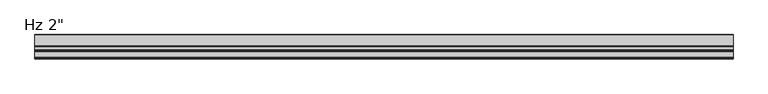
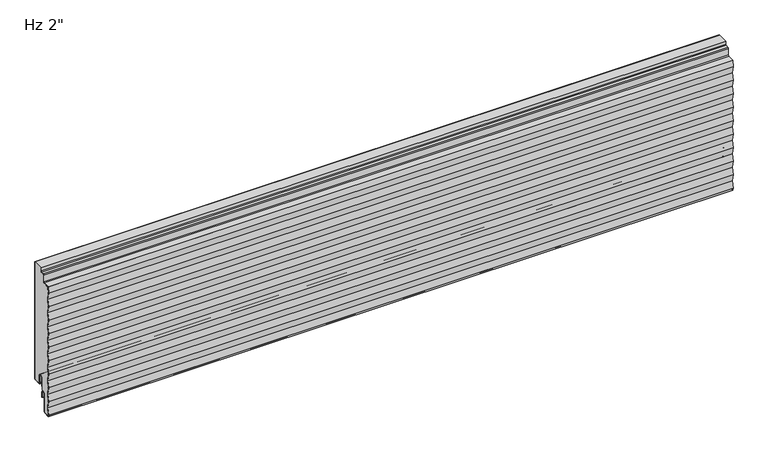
"""IFC4 building model written with IfcOpenShell, lengths in millimetres: plate geometry."""

from ifc_helpers import new_model, si_unit, point, frame, frame_2d, origin, place, context, project, spatial, polyline, circle_curve, trimmed, segment, composite_curve, outline, extrude, source, transform, mapped, element, save
from ifc_brep_helpers import plane_surface, cylinder_surface, revolved_surface, advanced_brep


def plate_127f21c6(model_context):
    return source(origin(), model_context, "Body", "SolidModel", [
        extrude(outline(composite_curve([segment(polyline([(-22.8125, 259.7620957), (-22.8125, 266.4), (-1.0, 266.4), (-1.0, 3.175)]), True, "CONTINUOUS"), segment(trimmed(circle_curve(frame_2d((-2.38125, 3.175)), 1.38125), [point((-1.0, 3.175))], [point((-2.38125, 1.79375))], False, "CARTESIAN"), True, "CONTINUOUS"), segment(polyline([(-2.38125, 1.79375), (-15.08125, 1.79375)]), True, "CONTINUOUS"), segment(trimmed(circle_curve(frame_2d((-15.08125, 3.175)), 1.38125), [point((-15.08125, 1.79375))], [point((-16.4625, 3.175))], False, "CARTESIAN"), True, "CONTINUOUS"), segment(polyline([(-16.4625, 3.175), (-16.4625, 19.05)]), True, "CONTINUOUS"), segment(trimmed(circle_curve(frame_2d((-21.43125, 19.05)), 4.96875), [point((-16.4625, 19.05))], [point((-26.4, 19.05))], True, "CARTESIAN"), True, "CONTINUOUS"), segment(polyline([(-26.4, 19.05), (-26.4, -6.9375), (-30.95625, -6.9375)]), True, "CONTINUOUS"), segment(trimmed(circle_curve(frame_2d((-30.95625, -11.90625)), 4.96875), [point((-30.95625, -6.9375))], [point((-35.925, -11.90625))], True, "CARTESIAN"), True, "CONTINUOUS"), segment(polyline([(-35.925, -11.90625), (-35.925, -50.0895546)]), True, "CONTINUOUS"), segment(trimmed(circle_curve(frame_2d((-37.30625, -50.0895546)), 1.38125), [point((-35.925, -50.0895546))], [point((-37.233961, -51.4689117))], False, "CARTESIAN"), True, "CONTINUOUS"), segment(polyline([(-37.233961, -51.4689117), (-48.346824, -52.0517378)]), True, "CONTINUOUS"), segment(trimmed(circle_curve(frame_2d((-48.4195367, -50.6716754)), 1.3819766), [point((-48.346824, -52.0517378))], [point((-49.7322508, -51.1036948))], False, "CARTESIAN"), True, "CONTINUOUS"), segment(polyline([(-49.7322508, -51.1036948), (-50.0933847, -48.8511475), (-47.6552034, -33.6111825), (-50.0936034, -18.3711825), (-47.6552034, -3.1311825), (-50.0936034, 12.1088175), (-47.6552034, 27.3488175), (-50.0936034, 42.5888175), (-47.6552034, 57.8288175), (-50.0936034, 73.0688175), (-47.6552034, 88.3088175), (-50.0936034, 103.5488175), (-47.6552034, 118.7888175), (-50.0936034, 134.0288175), (-47.6552034, 149.2688175), (-50.0936034, 164.5088175), (-47.6552034, 179.7488175), (-50.0936034, 194.9888175), (-47.6552034, 210.2288175), (-50.0611926, 225.26625), (-48.01595, 238.0490161), (-34.7895807, 238.7421807)]), True, "CONTINUOUS"), segment(trimmed(circle_curve(frame_2d((-34.925, 241.3261347)), 2.5875), [point((-34.7895807, 238.7421807))], [point((-32.3375, 241.3261347))], True, "CARTESIAN"), True, "CONTINUOUS"), segment(polyline([(-32.3375, 241.3261347), (-32.3375, 255.4967085)]), True, "CONTINUOUS"), segment(trimmed(circle_curve(frame_2d((-30.95625, 255.4967085)), 1.38125), [point((-32.3375, 255.4967085))], [point((-31.028539, 256.8760655))], False, "CARTESIAN"), True, "CONTINUOUS"), segment(polyline([(-31.028539, 256.8760655), (-25.2645807, 257.1781418)]), True, "CONTINUOUS"), segment(trimmed(circle_curve(frame_2d((-25.4, 259.7620957)), 2.5875), [point((-25.2645807, 257.1781418))], [point((-22.8125, 259.7620957))], True, "CARTESIAN"), True, "CONTINUOUS")], self_intersect=False)), frame((-730.0, 0.0, 0.0), z_axis=(1.0, 0.0, 0.0), x_axis=(0.0, 1.0, 0.0)), (0.0, 0.0, 1.0), 1460.0),
        extrude(outline(composite_curve([segment(polyline([(-25.4, 0.79375), (-26.4, 0.79375), (-26.4, 19.05)]), True, "CONTINUOUS"), segment(trimmed(circle_curve(frame_2d((-21.43125, 19.05)), 4.96875), [point((-26.4, 19.05))], [point((-16.4625, 19.05))], False, "CARTESIAN"), True, "CONTINUOUS"), segment(polyline([(-16.4625, 19.05), (-16.4625, 3.175)]), True, "CONTINUOUS"), segment(trimmed(circle_curve(frame_2d((-15.08125, 3.175)), 1.38125), [point((-16.4625, 3.175))], [point((-15.08125, 1.79375))], True, "CARTESIAN"), True, "CONTINUOUS"), segment(polyline([(-15.08125, 1.79375), (-2.38125, 1.79375)]), True, "CONTINUOUS"), segment(trimmed(circle_curve(frame_2d((-2.38125, 3.175)), 1.38125), [point((-2.38125, 1.79375))], [point((-1.0, 3.175))], True, "CARTESIAN"), True, "CONTINUOUS"), segment(polyline([(-1.0, 3.175), (-1.0, 266.4), (0.0, 266.4), (0.0, 3.175)]), True, "CONTINUOUS"), segment(trimmed(circle_curve(frame_2d((-2.38125, 3.175)), 2.38125), [point((0.0, 3.175))], [point((-2.38125, 0.79375))], False, "CARTESIAN"), True, "CONTINUOUS"), segment(polyline([(-2.38125, 0.79375), (-15.08125, 0.79375)]), True, "CONTINUOUS"), segment(trimmed(circle_curve(frame_2d((-15.08125, 3.175)), 2.38125), [point((-15.08125, 0.79375))], [point((-17.4625, 3.175))], False, "CARTESIAN"), True, "CONTINUOUS"), segment(polyline([(-17.4625, 3.175), (-17.4625, 19.05)]), True, "CONTINUOUS"), segment(trimmed(circle_curve(frame_2d((-21.43125, 19.05)), 3.96875), [point((-17.4625, 19.05))], [point((-25.4, 19.05))], True, "CARTESIAN"), True, "CONTINUOUS"), segment(polyline([(-25.4, 19.05), (-25.4, 0.79375)]), True, "CONTINUOUS")], self_intersect=False)), frame((-730.0, 0.0, 0.0), z_axis=(1.0, 0.0, 0.0), x_axis=(0.0, 1.0, 0.0)), (0.0, 0.0, 1.0), 1460.0),
        advanced_brep(
        [(-730.0, -25.4, -23.2314549), (-730.0, -26.9875, -23.2314549), (-730.0, -26.9875, -11.9205174), (-730.0, -34.925, -11.9205174), (-730.0, -34.925, -50.1038221), (-730.0, -37.181625, -52.4818086), (-730.0, -50.113818, -53.1595562), (-730.0, -50.8, -48.8709186), (-730.0, -48.3616, -33.6309186), (-730.0, -50.8, -18.3909186), (-730.0, -48.3616, -3.1509186), (-730.0, -50.8, 12.0890814), (-730.0, -48.3616, 27.3290814), (-730.0, -50.8, 42.5690814), (-730.0, -48.3616, 57.8090814), (-730.0, -50.8, 73.0490814), (-730.0, -48.3616, 88.2890814), (-730.0, -50.8, 103.5290814), (-730.0, -48.3616, 118.7690814), (-730.0, -50.8, 134.0090814), (-730.0, -48.3616, 149.2490814), (-730.0, -50.8, 164.4890814), (-730.0, -48.3616, 179.7290814), (-730.0, -50.8, 194.9690814), (-730.0, -48.3616, 210.2090814), (-730.0, -50.7837946, 225.3477976), (-730.0, -48.6289309, 239.0182635), (-730.0, -34.8419167, 239.7408103), (-730.0, -33.3375, 241.3261347), (-730.0, -33.3375, 255.4824411), (-730.0, -31.080875, 257.8604276), (-730.0, -25.3169167, 258.1625039), (-730.0, -23.8125, 259.7478283), (-730.0, -23.8125, 266.4), (-730.0, -22.8125, 266.4), (-730.0, -22.8125, 259.7478283), (-730.0, -25.2645807, 257.1638744), (-730.0, -31.028539, 256.8617981), (-730.0, -32.3375, 255.4824411), (-730.0, -32.3375, 241.3261347), (-730.0, -34.7895807, 238.7421807), (-730.0, -47.7692225, 238.0619465), (-730.0, -49.7872809, 225.4490814), (-730.0, -47.3488809, 210.2090814), (-730.0, -49.7872809, 194.9690814), (-730.0, -47.3488809, 179.7290814), (-730.0, -49.7872809, 164.4890814), (-730.0, -47.3488809, 149.2490814), (-730.0, -49.7872809, 134.0090814), (-730.0, -47.3488809, 118.7690814), (-730.0, -49.7872809, 103.5290814), (-730.0, -47.3488809, 88.2890814), (-730.0, -49.7872809, 73.0490814), (-730.0, -47.3488809, 57.8090814), (-730.0, -49.7872809, 42.5690814), (-730.0, -47.3488809, 27.3290814), (-730.0, -49.7872809, 12.0890814), (-730.0, -47.3488809, -3.1509186), (-730.0, -49.7872809, -18.3909186), (-730.0, -47.3488809, -33.6309186), (-730.0, -49.7872809, -48.8709186), (-730.0, -49.2684074, -52.1138777), (-730.0, -37.233961, -51.4831791), (-730.0, -35.925, -50.1038221), (-730.0, -35.925, -11.9205174), (-730.0, -25.9875, -11.9205174), (-730.0, -26.19375, -13.5080174), (-730.0, -25.4, -13.5080174), (730.0, -25.4, -23.2314549), (730.0, -25.4, -13.5080174), (730.0, -26.19375, -13.5080174), (730.0, -25.9875, -11.9205174), (730.0, -35.925, -11.9205174), (730.0, -35.925, -50.1038221), (730.0, -37.233961, -51.4831791), (730.0, -49.2684074, -52.1138777), (730.0, -49.7872809, -48.8709186), (730.0, -47.3488809, -33.6309186), (730.0, -49.7872809, -18.3909186), (730.0, -47.3488809, -3.1509186), (730.0, -49.7872809, 12.0890814), (730.0, -47.3488809, 27.3290814), (730.0, -49.7872809, 42.5690814), (730.0, -47.3488809, 57.8090814), (730.0, -49.7872809, 73.0490814), (730.0, -47.3488809, 88.2890814), (730.0, -49.7872809, 103.5290814), (730.0, -47.3488809, 118.7690814), (730.0, -49.7872809, 134.0090814), (730.0, -47.3488809, 149.2490814), (730.0, -49.7872809, 164.4890814), (730.0, -47.3488809, 179.7290814), (730.0, -49.7872809, 194.9690814), (730.0, -47.3488809, 210.2090814), (730.0, -49.7710755, 225.3477976), (730.0, -47.7692225, 238.0619465), (730.0, -34.7895807, 238.7421807), (730.0, -32.3375, 241.3261347), (730.0, -32.3375, 255.4824411), (730.0, -31.028539, 256.8617981), (730.0, -25.2645807, 257.1638744), (730.0, -22.8125, 259.7478283), (730.0, -22.8125, 266.4), (730.0, -23.8125, 266.4), (730.0, -23.8125, 259.7478283), (730.0, -25.3169167, 258.1625039), (730.0, -31.080875, 257.8604276), (730.0, -33.3375, 255.4824411), (730.0, -33.3375, 241.3261347), (730.0, -34.8419167, 239.7408103), (730.0, -48.6289309, 239.0182635), (730.0, -50.8, 225.4490814), (730.0, -48.3616, 210.2090814), (730.0, -50.8, 194.9690814), (730.0, -48.3616, 179.7290814), (730.0, -50.8, 164.4890814), (730.0, -48.3616, 149.2490814), (730.0, -50.8, 134.0090814), (730.0, -48.3616, 118.7690814), (730.0, -50.8, 103.5290814), (730.0, -48.3616, 88.2890814), (730.0, -50.8, 73.0490814), (730.0, -48.3616, 57.8090814), (730.0, -50.8, 42.5690814), (730.0, -48.3616, 27.3290814), (730.0, -50.8, 12.0890814), (730.0, -48.3616, -3.1509186), (730.0, -50.8, -18.3909186), (730.0, -48.3616, -33.6309186), (730.0, -50.8, -48.8709186), (730.0, -50.113818, -53.1595562), (730.0, -37.181625, -52.4818086), (730.0, -34.925, -50.1038221), (730.0, -34.925, -11.9205174), (730.0, -26.9875, -11.9205174), (730.0, -26.9875, -23.2314549)],
        [
            (0, 1, circle_curve(frame((-730.0, -26.19375, -23.2314549), z_axis=(-1.0, 0.0, 0.0), x_axis=(0.0, 0.0, 1.0)), 0.79375)),
            (1, 2),
            (2, 3, circle_curve(frame((-730.0, -30.95625, -11.9205174), z_axis=(1.0, 0.0, 0.0), x_axis=(0.0, 0.0, 1.0)), 3.96875)),
            (3, 4),
            (4, 5, circle_curve(frame((-730.0, -37.30625, -50.1038221), z_axis=(-1.0, 0.0, 0.0), x_axis=(0.0, 0.0, 1.0)), 2.38125)),
            (5, 6),
            (6, 7),
            (7, 8),
            (8, 9),
            (9, 10),
            (10, 11),
            (11, 12),
            (12, 13),
            (13, 14),
            (14, 15),
            (15, 16),
            (16, 17),
            (17, 18),
            (18, 19),
            (19, 20),
            (20, 21),
            (21, 22),
            (22, 23),
            (23, 24),
            (24, 25),
            (25, 26),
            (26, 27),
            (27, 28, circle_curve(frame((-730.0, -34.925, 241.3261347), z_axis=(1.0, 0.0, 0.0), x_axis=(0.0, 0.0, 1.0)), 1.5875)),
            (28, 29),
            (29, 30, circle_curve(frame((-730.0, -30.95625, 255.4824411), z_axis=(-1.0, 0.0, 0.0), x_axis=(0.0, 0.0, 1.0)), 2.38125)),
            (30, 31),
            (31, 32, circle_curve(frame((-730.0, -25.4, 259.7478283), z_axis=(1.0, 0.0, 0.0), x_axis=(0.0, 0.0, 1.0)), 1.5875)),
            (32, 33),
            (33, 34),
            (34, 35),
            (35, 36, circle_curve(frame((-730.0, -25.4, 259.7478283), z_axis=(-1.0, 0.0, 0.0), x_axis=(0.0, 0.0, 1.0)), 2.5875)),
            (36, 37),
            (37, 38, circle_curve(frame((-730.0, -30.95625, 255.4824411), z_axis=(1.0, 0.0, 0.0), x_axis=(0.0, 0.0, 1.0)), 1.38125)),
            (38, 39),
            (39, 40, circle_curve(frame((-730.0, -34.925, 241.3261347), z_axis=(-1.0, 0.0, 0.0), x_axis=(0.0, 0.0, 1.0)), 2.5875)),
            (40, 41),
            (41, 42),
            (42, 43),
            (43, 44),
            (44, 45),
            (45, 46),
            (46, 47),
            (47, 48),
            (48, 49),
            (49, 50),
            (50, 51),
            (51, 52),
            (52, 53),
            (53, 54),
            (54, 55),
            (55, 56),
            (56, 57),
            (57, 58),
            (58, 59),
            (59, 60),
            (60, 61),
            (61, 62),
            (62, 63, circle_curve(frame((-730.0, -37.30625, -50.1038221), z_axis=(1.0, 0.0, 0.0), x_axis=(0.0, 0.0, 1.0)), 1.38125)),
            (63, 64),
            (64, 65, circle_curve(frame((-730.0, -30.95625, -11.9205174), z_axis=(-1.0, 0.0, 0.0), x_axis=(0.0, 0.0, 1.0)), 4.96875)),
            (65, 66),
            (66, 67),
            (67, 0),
            (68, 69),
            (69, 70),
            (70, 71),
            (71, 72, circle_curve(frame((730.0, -30.95625, -11.9205174), z_axis=(1.0, 0.0, 0.0), x_axis=(0.0, 0.0, 1.0)), 4.96875)),
            (72, 73),
            (73, 74, circle_curve(frame((730.0, -37.30625, -50.1038221), z_axis=(-1.0, 0.0, 0.0), x_axis=(0.0, 0.0, 1.0)), 1.38125)),
            (74, 75),
            (75, 76),
            (76, 77),
            (77, 78),
            (78, 79),
            (79, 80),
            (80, 81),
            (81, 82),
            (82, 83),
            (83, 84),
            (84, 85),
            (85, 86),
            (86, 87),
            (87, 88),
            (88, 89),
            (89, 90),
            (90, 91),
            (91, 92),
            (92, 93),
            (93, 94),
            (94, 95),
            (95, 96),
            (96, 97, circle_curve(frame((730.0, -34.925, 241.3261347), z_axis=(1.0, 0.0, 0.0), x_axis=(0.0, 0.0, 1.0)), 2.5875)),
            (97, 98),
            (98, 99, circle_curve(frame((730.0, -30.95625, 255.4824411), z_axis=(-1.0, 0.0, 0.0), x_axis=(0.0, 0.0, 1.0)), 1.38125)),
            (99, 100),
            (100, 101, circle_curve(frame((730.0, -25.4, 259.7478283), z_axis=(1.0, 0.0, 0.0), x_axis=(0.0, 0.0, 1.0)), 2.5875)),
            (101, 102),
            (102, 103),
            (103, 104),
            (104, 105, circle_curve(frame((730.0, -25.4, 259.7478283), z_axis=(-1.0, 0.0, 0.0), x_axis=(0.0, 0.0, 1.0)), 1.5875)),
            (105, 106),
            (106, 107, circle_curve(frame((730.0, -30.95625, 255.4824411), z_axis=(1.0, 0.0, 0.0), x_axis=(0.0, 0.0, 1.0)), 2.38125)),
            (107, 108),
            (108, 109, circle_curve(frame((730.0, -34.925, 241.3261347), z_axis=(-1.0, 0.0, 0.0), x_axis=(0.0, 0.0, 1.0)), 1.5875)),
            (109, 110),
            (110, 111),
            (111, 112),
            (112, 113),
            (113, 114),
            (114, 115),
            (115, 116),
            (116, 117),
            (117, 118),
            (118, 119),
            (119, 120),
            (120, 121),
            (121, 122),
            (122, 123),
            (123, 124),
            (124, 125),
            (125, 126),
            (126, 127),
            (127, 128),
            (128, 129),
            (129, 130),
            (130, 131),
            (131, 132, circle_curve(frame((730.0, -37.30625, -50.1038221), z_axis=(1.0, 0.0, 0.0), x_axis=(0.0, 0.0, 1.0)), 2.38125)),
            (132, 133),
            (133, 134, circle_curve(frame((730.0, -30.95625, -11.9205174), z_axis=(-1.0, 0.0, 0.0), x_axis=(0.0, 0.0, 1.0)), 3.96875)),
            (134, 135),
            (135, 68, circle_curve(frame((730.0, -26.19375, -23.2314549), z_axis=(1.0, 0.0, 0.0), x_axis=(0.0, 0.0, 1.0)), 0.79375)),
            (61, 75),
            (74, 62),
            (73, 63),
            (72, 64),
            (71, 65),
            (66, 70),
            (69, 67),
            (39, 97),
            (96, 40),
            (37, 99),
            (98, 38),
            (35, 101),
            (100, 36),
            (34, 102),
            (103, 33),
            (32, 104),
            (30, 106),
            (105, 31),
            (28, 108),
            (107, 29),
            (27, 109),
            (5, 131),
            (130, 6),
            (3, 133),
            (132, 4),
            (1, 135),
            (134, 2),
            (68, 0),
            (46, 90),
            (89, 47),
            (88, 48),
            (87, 49),
            (26, 110),
            (95, 41),
            (24, 112),
            (111, 25),
            (42, 94),
            (93, 43),
            (92, 44),
            (91, 45),
            (21, 115),
            (114, 22),
            (113, 23),
            (20, 116),
            (18, 118),
            (117, 19),
            (16, 120),
            (119, 17),
            (14, 122),
            (121, 15),
            (12, 124),
            (123, 13),
            (10, 126),
            (125, 11),
            (8, 128),
            (127, 9),
            (129, 7),
            (59, 77),
            (76, 60),
            (57, 79),
            (78, 58),
            (55, 81),
            (80, 56),
            (53, 83),
            (82, 54),
            (51, 85),
            (84, 52),
            (86, 50),
        ],
        [
            plane_surface(frame((-730.0, -50.8, 152.4), z_axis=(-1.0, 0.0, 0.0), x_axis=(0.0, -1.0, 0.0))),
            plane_surface(frame((730.0, -50.8, 152.4), z_axis=(1.0, 0.0, 0.0), x_axis=(0.0, -1.0, 0.0))),
            plane_surface(frame((-730.0, -37.233961, -51.4831791), z_axis=(0.0, -0.052335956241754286, 0.9986295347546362), x_axis=(1.0, 0.0, 0.0))),
            revolved_surface(polyline([(730.0, -37.30625, -48.7225721), (-730.0, -37.30625, -48.7225721)]), (-730.0, -37.30625, -50.1038221), (1.0, 0.0, 0.0)),
            plane_surface(frame((-730.0, -35.925, -11.9205174), z_axis=(0.0, -1.0, 0.0), x_axis=(1.0, 0.0, 0.0))),
            cylinder_surface(frame((-730.0, -30.95625, -11.9205174), z_axis=(-1.0, 0.0, 0.0), x_axis=(0.0, 0.0, 1.0)), 4.96875),
            plane_surface(frame((-730.0, -25.4, -13.5080174), z_axis=(0.0, 0.0, 1.0), x_axis=(1.0, 0.0, 0.0))),
            plane_surface(frame((-730.0, -26.19375, -13.5080174), z_axis=(0.0, 0.9916655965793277, -0.12883844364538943), x_axis=(1.0, 0.0, 0.0))),
            cylinder_surface(frame((-730.0, -34.925, 241.3261347), z_axis=(-1.0, 0.0, 0.0), x_axis=(0.0, 0.0, 1.0)), 2.5875),
            revolved_surface(polyline([(730.0, -30.95625, 256.8636911), (-730.0, -30.95625, 256.8636911)]), (-730.0, -30.95625, 255.4824411), (1.0, 0.0, 0.0)),
            cylinder_surface(frame((-730.0, -25.4, 259.7478283), z_axis=(-1.0, 0.0, 0.0), x_axis=(0.0, 0.0, 1.0)), 2.5875),
            plane_surface(frame((-730.0, -31.028539, 256.8617981), z_axis=(0.0, 0.0523359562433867, -0.9986295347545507), x_axis=(1.0, 0.0, 0.0))),
            plane_surface(frame((-730.0, -32.3375, 241.3261347), z_axis=(0.0, 1.0, 0.0), x_axis=(1.0, 0.0, 0.0))),
            plane_surface(frame((-730.0, -22.8125, 259.7478283), z_axis=(0.0, 1.0, 0.0), x_axis=(1.0, 0.0, 0.0))),
            plane_surface(frame((-730.0, -23.8125, 274.6232326), z_axis=(0.0, -1.0, 0.0), x_axis=(1.0, 0.0, 0.0))),
            plane_surface(frame((-730.0, -25.3169167, 258.1625039), z_axis=(0.0, -0.052335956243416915, 0.9986295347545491), x_axis=(1.0, 0.0, 0.0))),
            revolved_surface(polyline([(730.0, -25.4, 261.33532829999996), (-730.0, -25.4, 261.33532829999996)]), (-730.0, -25.4, 259.7478283), (1.0, 0.0, 0.0)),
            plane_surface(frame((-730.0, -33.3375, 255.4824411), z_axis=(0.0, -1.0, 0.0), x_axis=(1.0, 0.0, 0.0))),
            revolved_surface(polyline([(730.0, -34.925, 242.91363470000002), (-730.0, -34.925, 242.91363470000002)]), (-730.0, -34.925, 241.3261347), (1.0, 0.0, 0.0)),
            cylinder_surface(frame((-730.0, -30.95625, 255.4824411), z_axis=(-1.0, 0.0, 0.0), x_axis=(0.0, 0.0, 1.0)), 2.38125),
            plane_surface(frame((-730.0, -50.113818, -53.1595562), z_axis=(0.0, 0.052335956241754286, -0.9986295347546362), x_axis=(1.0, 0.0, 0.0))),
            plane_surface(frame((-730.0, -34.925, -50.1038221), z_axis=(0.0, 1.0, 0.0), x_axis=(1.0, 0.0, 0.0))),
            plane_surface(frame((-730.0, -26.9875, -11.9205174), z_axis=(0.0, -1.0, 0.0), x_axis=(1.0, 0.0, 0.0))),
            revolved_surface(polyline([(730.0, -30.95625, -7.9517674), (-730.0, -30.95625, -7.9517674)]), (-730.0, -30.95625, -11.9205174), (1.0, 0.0, 0.0)),
            cylinder_surface(frame((-730.0, -37.30625, -50.1038221), z_axis=(-1.0, 0.0, 0.0), x_axis=(0.0, 0.0, 1.0)), 2.38125),
            plane_surface(frame((-730.0, -25.4, -23.2314549), z_axis=(0.0, 1.0, 0.0), x_axis=(1.0, 0.0, 0.0))),
            cylinder_surface(frame((-730.0, -26.19375, -23.2314549), z_axis=(-1.0, 0.0, 0.0), x_axis=(0.0, 0.0, 1.0)), 0.79375),
            plane_surface(frame((-730.0, -47.3488809, 149.2490814), z_axis=(0.0, 0.9874406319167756, 0.15799050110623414), x_axis=(1.0, 0.0, 0.0))),
            plane_surface(frame((-730.0, -49.7872809, 134.0090814), z_axis=(0.0, 0.987440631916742, -0.15799050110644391), x_axis=(1.0, 0.0, 0.0))),
            plane_surface(frame((-730.0, -47.3488809, 118.7690814), z_axis=(0.0, 0.987440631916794, 0.1579905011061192), x_axis=(1.0, 0.0, 0.0))),
            plane_surface(frame((-730.0, -34.8419167, 239.7408103), z_axis=(0.0, -0.052335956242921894, 0.998629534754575), x_axis=(1.0, 0.0, 0.0))),
            plane_surface(frame((-730.0, -47.7692225, 238.0619465), z_axis=(0.0, 0.05233595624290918, -0.9986295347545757), x_axis=(1.0, 0.0, 0.0))),
            plane_surface(frame((-730.0, -50.7837946, 225.3477976), z_axis=(0.0, -0.9874406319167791, -0.15799050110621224), x_axis=(1.0, 0.0, 0.0))),
            plane_surface(frame((-730.0, -47.3488809, 210.2090814), z_axis=(0.0, 0.9874406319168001, 0.15799050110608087), x_axis=(1.0, 0.0, 0.0))),
            plane_surface(frame((-730.0, -49.7872809, 194.9690814), z_axis=(0.0, 0.9874406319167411, -0.15799050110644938), x_axis=(1.0, 0.0, 0.0))),
            plane_surface(frame((-730.0, -47.3488809, 179.7290814), z_axis=(0.0, 0.987440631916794, 0.1579905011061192), x_axis=(1.0, 0.0, 0.0))),
            plane_surface(frame((-730.0, -49.7872809, 164.4890814), z_axis=(0.0, 0.987440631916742, -0.15799050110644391), x_axis=(1.0, 0.0, 0.0))),
            plane_surface(frame((-730.0, -48.3616, 179.7290814), z_axis=(0.0, -0.9874406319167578, 0.15799050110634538), x_axis=(1.0, 0.0, 0.0))),
            plane_surface(frame((-730.0, -50.8, 194.9690814), z_axis=(0.0, -0.9874406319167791, -0.15799050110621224), x_axis=(1.0, 0.0, 0.0))),
            plane_surface(frame((-730.0, -48.3616, 210.2090814), z_axis=(0.0, -0.9874406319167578, 0.15799050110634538), x_axis=(1.0, 0.0, 0.0))),
            plane_surface(frame((-730.0, -49.7872809, 225.4490814), z_axis=(0.0, 0.9874406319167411, -0.15799050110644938), x_axis=(1.0, 0.0, 0.0))),
            plane_surface(frame((-730.0, -48.6289309, 239.0182635), z_axis=(0.0, -0.9874406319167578, 0.15799050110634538), x_axis=(1.0, 0.0, 0.0))),
            plane_surface(frame((-730.0, -50.8, 164.4890814), z_axis=(0.0, -0.9874406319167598, -0.15799050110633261), x_axis=(1.0, 0.0, 0.0))),
            plane_surface(frame((-730.0, -50.8, 134.0090814), z_axis=(0.0, -0.9874406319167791, -0.15799050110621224), x_axis=(1.0, 0.0, 0.0))),
            plane_surface(frame((-730.0, -48.3616, 149.2490814), z_axis=(0.0, -0.9874406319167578, 0.15799050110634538), x_axis=(1.0, 0.0, 0.0))),
            plane_surface(frame((-730.0, -50.8, 103.5290814), z_axis=(0.0, -0.9874406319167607, -0.15799050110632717), x_axis=(1.0, 0.0, 0.0))),
            plane_surface(frame((-730.0, -50.8, 73.0490814), z_axis=(0.0, -0.9874406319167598, -0.15799050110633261), x_axis=(1.0, 0.0, 0.0))),
            plane_surface(frame((-730.0, -48.3616, 88.2890814), z_axis=(0.0, -0.9874406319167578, 0.15799050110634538), x_axis=(1.0, 0.0, 0.0))),
            plane_surface(frame((-730.0, -48.3616, 118.7690814), z_axis=(0.0, -0.9874406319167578, 0.15799050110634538), x_axis=(1.0, 0.0, 0.0))),
            plane_surface(frame((-730.0, -50.8, 42.5690814), z_axis=(0.0, -0.9874406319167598, -0.15799050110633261), x_axis=(1.0, 0.0, 0.0))),
            plane_surface(frame((-730.0, -50.8, 12.0890814), z_axis=(0.0, -0.9874406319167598, -0.15799050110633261), x_axis=(1.0, 0.0, 0.0))),
            plane_surface(frame((-730.0, -48.3616, 27.3290814), z_axis=(0.0, -0.9874406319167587, 0.15799050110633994), x_axis=(1.0, 0.0, 0.0))),
            plane_surface(frame((-730.0, -48.3616, 57.8090814), z_axis=(0.0, -0.9874406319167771, 0.157990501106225), x_axis=(1.0, 0.0, 0.0))),
            plane_surface(frame((-730.0, -50.8, -18.3909186), z_axis=(0.0, -0.9874406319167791, -0.15799050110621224), x_axis=(1.0, 0.0, 0.0))),
            plane_surface(frame((-730.0, -50.8, -48.8709186), z_axis=(0.0, -0.9874406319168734, -0.15799050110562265), x_axis=(1.0, 0.0, 0.0))),
            plane_surface(frame((-730.0, -48.3616, -33.6309186), z_axis=(0.0, -0.9874406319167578, 0.15799050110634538), x_axis=(1.0, 0.0, 0.0))),
            plane_surface(frame((-730.0, -48.3616, -3.1509186), z_axis=(0.0, -0.9874406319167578, 0.15799050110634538), x_axis=(1.0, 0.0, 0.0))),
            plane_surface(frame((-730.0, -49.7872809, -48.8709186), z_axis=(0.0, 0.9874406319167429, -0.15799050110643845), x_axis=(1.0, 0.0, 0.0))),
            plane_surface(frame((-730.0, -49.7872809, -18.3909186), z_axis=(0.0, 0.987440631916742, -0.15799050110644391), x_axis=(1.0, 0.0, 0.0))),
            plane_surface(frame((-730.0, -47.3488809, -33.6309186), z_axis=(0.0, 0.987440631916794, 0.1579905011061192), x_axis=(1.0, 0.0, 0.0))),
            plane_surface(frame((-730.0, -49.2684074, -52.1138777), z_axis=(0.0, 0.987440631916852, 0.1579905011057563), x_axis=(1.0, 0.0, 0.0))),
            plane_surface(frame((-730.0, -49.7872809, 12.0890814), z_axis=(0.0, 0.987440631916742, -0.15799050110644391), x_axis=(1.0, 0.0, 0.0))),
            plane_surface(frame((-730.0, -49.7872809, 42.5690814), z_axis=(0.0, 0.9874406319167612, -0.1579905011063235), x_axis=(1.0, 0.0, 0.0))),
            plane_surface(frame((-730.0, -47.3488809, 27.3290814), z_axis=(0.0, 0.9874406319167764, 0.15799050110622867), x_axis=(1.0, 0.0, 0.0))),
            plane_surface(frame((-730.0, -47.3488809, -3.1509186), z_axis=(0.0, 0.9874406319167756, 0.15799050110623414), x_axis=(1.0, 0.0, 0.0))),
            plane_surface(frame((-730.0, -49.7872809, 73.0490814), z_axis=(0.0, 0.9874406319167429, -0.15799050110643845), x_axis=(1.0, 0.0, 0.0))),
            plane_surface(frame((-730.0, -49.7872809, 103.5290814), z_axis=(0.0, 0.987440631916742, -0.15799050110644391), x_axis=(1.0, 0.0, 0.0))),
            plane_surface(frame((-730.0, -47.3488809, 88.2890814), z_axis=(0.0, 0.9874406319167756, 0.15799050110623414), x_axis=(1.0, 0.0, 0.0))),
            plane_surface(frame((-730.0, -47.3488809, 57.8090814), z_axis=(0.0, 0.9874406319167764, 0.15799050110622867), x_axis=(1.0, 0.0, 0.0))),
            plane_surface(frame((730.0, 10.0, 266.4), z_axis=(0.0, 0.0, 1.0), x_axis=(-1.0, 0.0, 0.0))),
        ],
        [
            (0, [[1, 2, 3, 4, 5, 6, 7, 8, 9, 10, 11, 12, 13, 14, 15, 16, 17, 18, 19, 20, 21, 22, 23, 24, 25, 26, 27, 28, 29, 30, 31, 32, 33, 34, 35, 36, 37, 38, 39, 40, 41, 42, 43, 44, 45, 46, 47, 48, 49, 50, 51, 52, 53, 54, 55, 56, 57, 58, 59, 60, 61, 62, 63, 64, 65, 66, 67, 68]]),
            (1, [[69, 70, 71, 72, 73, 74, 75, 76, 77, 78, 79, 80, 81, 82, 83, 84, 85, 86, 87, 88, 89, 90, 91, 92, 93, 94, 95, 96, 97, 98, 99, 100, 101, 102, 103, 104, 105, 106, 107, 108, 109, 110, 111, 112, 113, 114, 115, 116, 117, 118, 119, 120, 121, 122, 123, 124, 125, 126, 127, 128, 129, 130, 131, 132, 133, 134, 135, 136]]),
            (2, [[137, -75, 138, -62]]),
            (3, [[-138, -74, 139, -63]]),
            (4, [[-139, -73, 140, -64]]),
            (5, [[-140, -72, 141, -65]]),
            (6, [[142, -70, 143, -67]]),
            (7, [[-141, -71, -142, -66]]),
            (8, [[144, -97, 145, -40]]),
            (9, [[146, -99, 147, -38]]),
            (10, [[148, -101, 149, -36]]),
            (11, [[-149, -100, -146, -37]]),
            (12, [[-147, -98, -144, -39]]),
            (13, [[-35, 150, -102, -148]]),
            (14, [[-104, 151, -33, 152]]),
            (15, [[153, -106, 154, -31]]),
            (16, [[-154, -105, -152, -32]]),
            (17, [[155, -108, 156, -29]]),
            (18, [[157, -109, -155, -28]]),
            (19, [[-156, -107, -153, -30]]),
            (20, [[158, -131, 159, -6]]),
            (21, [[160, -133, 161, -4]]),
            (22, [[162, -135, 163, -2]]),
            (23, [[-163, -134, -160, -3]]),
            (24, [[-161, -132, -158, -5]]),
            (25, [[-143, -69, 164, -68]]),
            (26, [[-164, -136, -162, -1]]),
            (27, [[165, -90, 166, -47]]),
            (28, [[-166, -89, 167, -48]]),
            (29, [[-167, -88, 168, -49]]),
            (30, [[169, -110, -157, -27]]),
            (31, [[-145, -96, 170, -41]]),
            (32, [[171, -112, 172, -25]]),
            (33, [[173, -94, 174, -43]]),
            (34, [[-174, -93, 175, -44]]),
            (35, [[-175, -92, 176, -45]]),
            (36, [[-176, -91, -165, -46]]),
            (37, [[177, -115, 178, -22]]),
            (38, [[-178, -114, 179, -23]]),
            (39, [[-179, -113, -171, -24]]),
            (40, [[-170, -95, -173, -42]]),
            (41, [[-172, -111, -169, -26]]),
            (42, [[180, -116, -177, -21]]),
            (43, [[181, -118, 182, -19]]),
            (44, [[-182, -117, -180, -20]]),
            (45, [[183, -120, 184, -17]]),
            (46, [[185, -122, 186, -15]]),
            (47, [[-186, -121, -183, -16]]),
            (48, [[-184, -119, -181, -18]]),
            (49, [[187, -124, 188, -13]]),
            (50, [[189, -126, 190, -11]]),
            (51, [[-190, -125, -187, -12]]),
            (52, [[-188, -123, -185, -14]]),
            (53, [[191, -128, 192, -9]]),
            (54, [[-159, -130, 193, -7]]),
            (55, [[-193, -129, -191, -8]]),
            (56, [[-192, -127, -189, -10]]),
            (57, [[194, -77, 195, -60]]),
            (58, [[196, -79, 197, -58]]),
            (59, [[-197, -78, -194, -59]]),
            (60, [[-195, -76, -137, -61]]),
            (61, [[198, -81, 199, -56]]),
            (62, [[200, -83, 201, -54]]),
            (63, [[-201, -82, -198, -55]]),
            (64, [[-199, -80, -196, -57]]),
            (65, [[202, -85, 203, -52]]),
            (66, [[-168, -87, 204, -50]]),
            (67, [[-204, -86, -202, -51]]),
            (68, [[-203, -84, -200, -53]]),
            (69, [[-151, -103, -150, -34]]),
        ],
    ),
    ])


if __name__ == "__main__":
    model = new_model("IFC4")
    model_context = context("Model", 3, world=origin())
    ifc_project = project(units=[si_unit("LENGTHUNIT", "METRE", prefix="MILLI")], contexts=[model_context])
    site = spatial("IfcSite", under=ifc_project)
    building = spatial("IfcBuilding", under=site)
    placement = place(None, origin())
    plate_shape = plate_127f21c6(model_context)
    element("IfcPlate", 1, ObjectType="KIP-12-DWHR-R19-CP-Hz-S : Hz 2\"", at=placement, inside=building, context=model_context, shape_type="MappedRepresentation", body=[
        mapped(plate_shape, transform((0.0, 0.0, 0.0), x_axis=(1.0, 0.0, 0.0), y_axis=(0.0, 1.0, 0.0), z_axis=(0.0, 0.0, 1.0))),
    ])
    save(model, "model.ifc")
